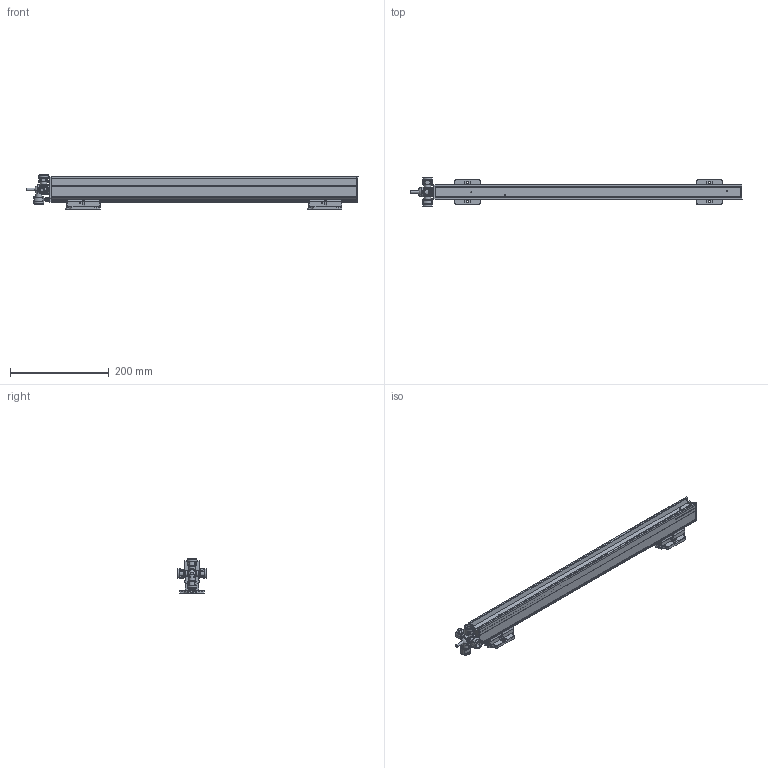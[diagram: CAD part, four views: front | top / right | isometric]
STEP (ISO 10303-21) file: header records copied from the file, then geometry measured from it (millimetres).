
FILE_DESCRIPTION(/* description */ (''),/* implementation_level */ '2;1');
FILE_NAME(/* name */ 'PERFORMAXEASYEX_0450_3D_GB',/* time_stamp */ '2017-05-31T09:45:43+02:00',/* author */ (''),/* organization */ (''),/* preprocessor_version */ 'ST-DEVELOPER v15.7',/* originating_system */ 'HiCAD 2015 2002.1 Build 408',/* authorisation */ '');
FILE_SCHEMA (('AUTOMOTIVE_DESIGN { 1 0 10303 214 1 1 1 1 }'));
Length unit declared in the file: millimetre
Products named in the file (57): Root; -_Performax (IQ) Easy Ex 0450 eff (Hybrid + Speed); -_LED; -_PROFILE; -_POTTING; -_CAP DE; -_CAP CE; -_CABLE; -_PIN; -_COVER; 4532000100_Mounting bracket bars; -_Side piece; -_Slide piece; -_Bracket small; DIN 13-M3; DIN 76-M3; 2047507823_PE connection; DIN 916-M4x20-45H_Set screws; GEWINDE; ISO 8738-4-160 HV_Washers for studs; ISO 4032-M4-10_Hexagon nuts; DIN 127-A 4-FSt_Washers; 2047493713_Cable exits; -_Exit K; -_Clip; -_Gland body; -_Exit S; -_Exit Q; -_Washer ø20mm, 5mm thick for corr. conduit (exit
 Q); -_Exit I; -_Exit U; -_Exit A; Thread_2
Assembly tree (56 placements, depth 5):
  Root
    -_Performax (IQ) Easy Ex 0450 eff (Hybrid + Speed)
      -_LED
      -_PROFILE
      -_POTTING
      -_CAP DE
      -_CAP CE
      -_CABLE
      -_PIN
      -_PIN
      -_COVER
      4532000100_Mounting bracket bars
        -_Side piece
        -_Side piece
        -_Slide piece
        -_Bracket small
          DIN 13-M3
          DIN 13-M3
          DIN 76-M3
          DIN 76-M3
      4532000100_Mounting bracket bars
        -_Side piece
        -_Side piece
        -_Slide piece
        -_Bracket small
          DIN 13-M3
          DIN 13-M3
          DIN 76-M3
          DIN 76-M3
      2047507823_PE connection
        DIN 916-M4x20-45H_Set screws
          GEWINDE
        ISO 8738-4-160 HV_Washers for studs
        ISO 4032-M4-10_Hexagon nuts
          GEWINDE
        DIN 127-A 4-FSt_Washers
        ISO 4032-M4-10_Hexagon nuts
          GEWINDE
      2047493713_Cable exits
        -_Exit K
          -_Clip
          -_Gland body
        -_Exit S
          -_Clip
          -_Gland body
        -_Exit Q
          -_Clip
          -_Washer ø20mm, 5mm thick for corr. conduit (exit
 Q)
          -_Gland body
        -_Exit I
          -_Clip
          -_Gland body
        -_Exit U
          -_Clip
          -_Gland body
        -_Exit A
          Thread_2
Bounding box: 672.4 x 58.79 x 68.9 mm (x, y, z)
Volume: 826476 mm3; surface area: 265968 mm2
Topology: 47 solids, 53 shells, 1941 faces, 5010 edges, 3074 vertices
Faces by surface type: plane 913, cylinder 739, torus 91, sphere 87, bspline 64, cone 47
Full cylindrical faces by diameter (mm): 2.387 x8, 3 x16, 3.141 x4, 4 x5, 4.3 x1, 5.4 x2, 5.5 x10, 8 x2, 11.3 x4, 12.5 x4, 13 x1, 14.6 x5, 15.1 x5, 18.4 x4, 20 x7, 20.2 x4
Entity records: 107117 total; most frequent: CARTESIAN_POINT 22020, DIRECTION 10074, PRESENTATION_STYLE_ASSIGNMENT 9495, OVER_RIDING_STYLED_ITEM 9449, DRAUGHTING_PRE_DEFINED_CURVE_FONT 9436, CURVE_STYLE 9436, ORIENTED_EDGE 9436, EDGE_CURVE 4718
